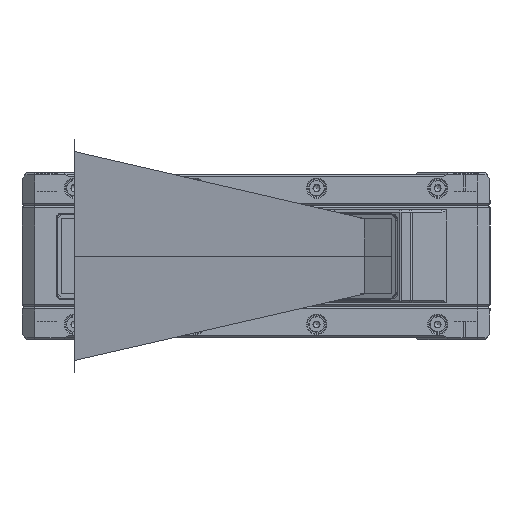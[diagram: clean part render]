
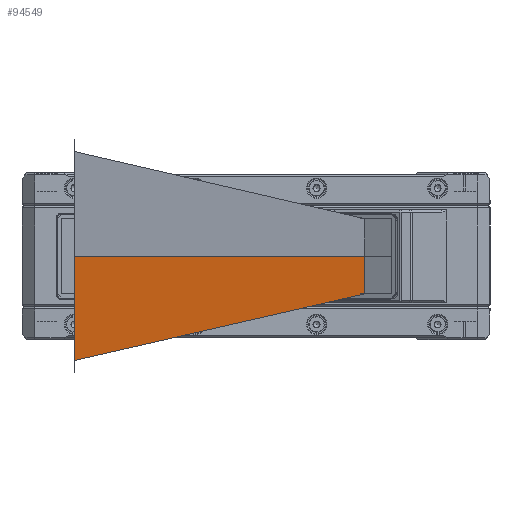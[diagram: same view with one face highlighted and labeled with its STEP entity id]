
A CAD part, front view. The second image highlights one B-rep face of the part: STEP entity #94549.
In plain terms, the highlighted planar face has unit normal (0.866, -0.5, 0).
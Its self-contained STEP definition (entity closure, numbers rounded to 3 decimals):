
#4207 = DIRECTION ( 'NONE',  ( -0.866, 0.5, 0. ) ) ;
#5084 = DIRECTION ( 'NONE',  ( 0., 0., 1. ) ) ;
#24197 = ORIENTED_EDGE ( 'NONE', *, *, #156165, .F. ) ;
#25308 = VERTEX_POINT ( 'NONE', #160289 ) ;
#37897 = EDGE_CURVE ( 'NONE', #140906, #136746, #39498, .T. ) ;
#39209 = EDGE_CURVE ( 'NONE', #25308, #136746, #146319, .T. ) ;
#39498 = LINE ( 'NONE', #144200, #68405 ) ;
#56556 = LINE ( 'NONE', #139999, #118754 ) ;
#59147 = DIRECTION ( 'NONE',  ( -0.497, -0.86, -0.114 ) ) ;
#68405 = VECTOR ( 'NONE', #93636, 1000. ) ;
#78124 = ORIENTED_EDGE ( 'NONE', *, *, #37897, .T. ) ;
#83464 = CARTESIAN_POINT ( 'NONE',  ( -43.499, -136.001, -0.001 ) ) ;
#83860 = DIRECTION ( 'NONE',  ( 0., 0., -1. ) ) ;
#86830 = FACE_OUTER_BOUND ( 'NONE', #141288, .T. ) ;
#89430 = PLANE ( 'NONE',  #99148 ) ;
#93636 = DIRECTION ( 'NONE',  ( -0.5, -0.866, 0. ) ) ;
#94549 = ADVANCED_FACE ( 'NONE', ( #86830 ), #89430, .F. ) ;
#99148 = AXIS2_PLACEMENT_3D ( 'NONE', #155066, #4207, #5084 ) ;
#100785 = CARTESIAN_POINT ( 'NONE',  ( 25.95, -15.709, -9. ) ) ;
#110329 = CARTESIAN_POINT ( 'NONE',  ( 25.95, -15.709, 9. ) ) ;
#118754 = VECTOR ( 'NONE', #59147, 1000. ) ;
#122291 = CARTESIAN_POINT ( 'NONE',  ( -43.499, -136.001, -24.929 ) ) ;
#125004 = EDGE_CURVE ( 'NONE', #140906, #127763, #137095, .T. ) ;
#127763 = VERTEX_POINT ( 'NONE', #100785 ) ;
#136746 = VERTEX_POINT ( 'NONE', #83464 ) ;
#137095 = LINE ( 'NONE', #110329, #160358 ) ;
#139999 = CARTESIAN_POINT ( 'NONE',  ( 25.95, -15.709, -9. ) ) ;
#140906 = VERTEX_POINT ( 'NONE', #167654 ) ;
#141288 = EDGE_LOOP ( 'NONE', ( #168326, #78124, #160739, #24197 ) ) ;
#142467 = VECTOR ( 'NONE', #160475, 1000. ) ;
#144200 = CARTESIAN_POINT ( 'NONE',  ( 26.265, -15.164, -0.001 ) ) ;
#146319 = LINE ( 'NONE', #122291, #142467 ) ;
#155066 = CARTESIAN_POINT ( 'NONE',  ( 26.265, -15.164, 0. ) ) ;
#156165 = EDGE_CURVE ( 'NONE', #127763, #25308, #56556, .T. ) ;
#160289 = CARTESIAN_POINT ( 'NONE',  ( -43.499, -136.001, -24.929 ) ) ;
#160358 = VECTOR ( 'NONE', #83860, 1000. ) ;
#160475 = DIRECTION ( 'NONE',  ( 0., 0., 1. ) ) ;
#160739 = ORIENTED_EDGE ( 'NONE', *, *, #39209, .F. ) ;
#167654 = CARTESIAN_POINT ( 'NONE',  ( 25.95, -15.709, -0.001 ) ) ;
#168326 = ORIENTED_EDGE ( 'NONE', *, *, #125004, .F. ) ;
